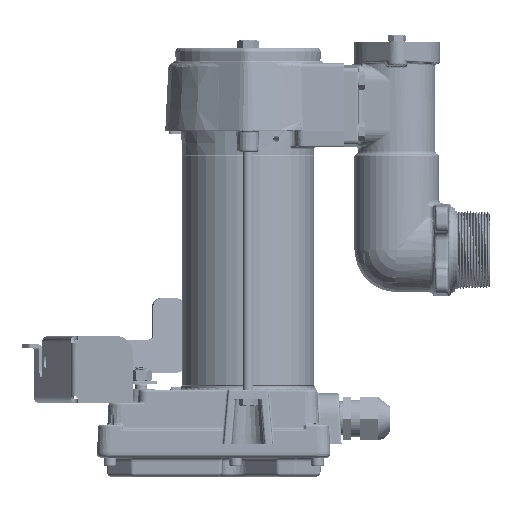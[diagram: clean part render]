
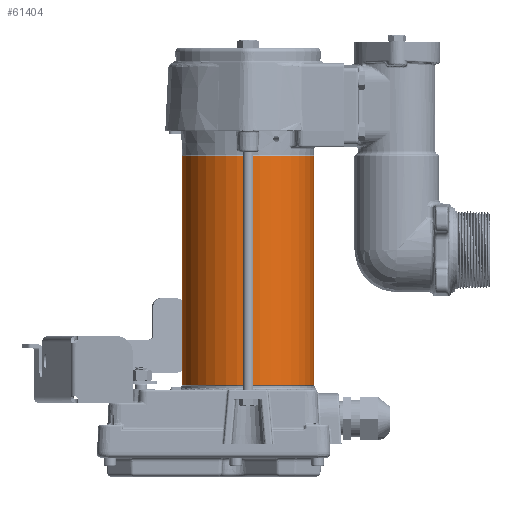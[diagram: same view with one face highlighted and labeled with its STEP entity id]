
A CAD part, left-side view. The second image highlights one B-rep face of the part: STEP entity #61404.
In plain terms, the highlighted cylindrical face has radius 50.8 mm (diameter 101.6 mm), a full revolution.
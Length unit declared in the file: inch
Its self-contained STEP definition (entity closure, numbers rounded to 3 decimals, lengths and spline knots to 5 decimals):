
#1630=CYLINDRICAL_SURFACE('',#65818,2.);
#3141=CIRCLE('',#65804,2.);
#3144=CIRCLE('',#65814,2.);
#3146=CIRCLE('',#65817,2.);
#3147=CIRCLE('',#65819,2.);
#4939=FACE_BOUND('',#11731,.T.);
#7854=FACE_OUTER_BOUND('',#11730,.T.);
#11730=EDGE_LOOP('',(#44452,#44453,#44454,#44455));
#11731=EDGE_LOOP('',(#44456,#44457,#44458,#44459));
#15524=LINE('',#111485,#19476);
#15527=LINE('',#111491,#19479);
#15535=LINE('',#111511,#19487);
#15537=LINE('',#111516,#19489);
#19476=VECTOR('',#74938,0.3937);
#19479=VECTOR('',#74943,0.3937);
#19487=VECTOR('',#74961,0.3937);
#19489=VECTOR('',#74965,0.3937);
#25756=VERTEX_POINT('',#111475);
#25757=VERTEX_POINT('',#111476);
#25760=VERTEX_POINT('',#111484);
#25762=VERTEX_POINT('',#111490);
#25768=VERTEX_POINT('',#111507);
#25769=VERTEX_POINT('',#111509);
#25770=VERTEX_POINT('',#111513);
#25771=VERTEX_POINT('',#111515);
#32460=EDGE_CURVE('',#25756,#25757,#3141,.T.);
#32464=EDGE_CURVE('',#25757,#25760,#15524,.T.);
#32467=EDGE_CURVE('',#25762,#25756,#15527,.T.);
#32477=EDGE_CURVE('',#25768,#25769,#15535,.T.);
#32479=EDGE_CURVE('',#25771,#25770,#15537,.T.);
#32481=EDGE_CURVE('',#25769,#25771,#3144,.T.);
#32483=EDGE_CURVE('',#25768,#25770,#3146,.T.);
#32484=EDGE_CURVE('',#25762,#25760,#3147,.T.);
#44452=ORIENTED_EDGE('',*,*,#32479,.T.);
#44453=ORIENTED_EDGE('',*,*,#32483,.F.);
#44454=ORIENTED_EDGE('',*,*,#32477,.T.);
#44455=ORIENTED_EDGE('',*,*,#32481,.T.);
#44456=ORIENTED_EDGE('',*,*,#32467,.T.);
#44457=ORIENTED_EDGE('',*,*,#32460,.T.);
#44458=ORIENTED_EDGE('',*,*,#32464,.T.);
#44459=ORIENTED_EDGE('',*,*,#32484,.F.);
#61404=ADVANCED_FACE('',(#7854,#4939),#1630,.T.);
#65804=AXIS2_PLACEMENT_3D('',#111477,#74931,#74932);
#65814=AXIS2_PLACEMENT_3D('',#111519,#74969,#74970);
#65817=AXIS2_PLACEMENT_3D('',#111523,#74975,#74976);
#65818=AXIS2_PLACEMENT_3D('',#111524,#74977,#74978);
#65819=AXIS2_PLACEMENT_3D('',#111525,#74979,#74980);
#74931=DIRECTION('center_axis',(0.,0.,
1.));
#74932=DIRECTION('ref_axis',(0.,1.,0.));
#74938=DIRECTION('',(0.,0.,-1.));
#74943=DIRECTION('',(0.,0.,1.));
#74961=DIRECTION('',(0.,0.,-1.));
#74965=DIRECTION('',(0.,0.,1.));
#74969=DIRECTION('center_axis',(0.,0.,
-1.));
#74970=DIRECTION('ref_axis',(0.,1.,0.));
#74975=DIRECTION('center_axis',(0.,0.,
1.));
#74976=DIRECTION('ref_axis',(0.,-1.,0.));
#74977=DIRECTION('center_axis',(0.,0.,
1.));
#74978=DIRECTION('ref_axis',(0.,1.,0.));
#74979=DIRECTION('center_axis',(0.,0.,
-1.));
#74980=DIRECTION('ref_axis',(0.,-1.,0.));
#111475=CARTESIAN_POINT('',(0.01,1.99997,-7.226));
#111476=CARTESIAN_POINT('',(-0.01,1.99997,-7.226));
#111477=CARTESIAN_POINT('Origin',(0.,0.,
-7.226));
#111484=CARTESIAN_POINT('',(-0.01,1.99997,-7.696));
#111485=CARTESIAN_POINT('',(-0.01,1.99997,-4.226));
#111490=CARTESIAN_POINT('',(0.01,1.99997,-7.696));
#111491=CARTESIAN_POINT('',(0.01,1.99997,-4.226));
#111507=CARTESIAN_POINT('',(-0.01,1.99997,-0.756));
#111509=CARTESIAN_POINT('',(-0.01,1.99997,-1.226));
#111511=CARTESIAN_POINT('',(-0.01,1.99997,-4.226));
#111513=CARTESIAN_POINT('',(0.01,1.99997,-0.756));
#111515=CARTESIAN_POINT('',(0.01,1.99997,-1.226));
#111516=CARTESIAN_POINT('',(0.01,1.99997,-4.226));
#111519=CARTESIAN_POINT('Origin',(0.,0.,
-1.226));
#111523=CARTESIAN_POINT('Origin',(0.,0.,
-0.756));
#111524=CARTESIAN_POINT('Origin',(0.,0.,
-4.226));
#111525=CARTESIAN_POINT('Origin',(0.,0.,
-7.696));
